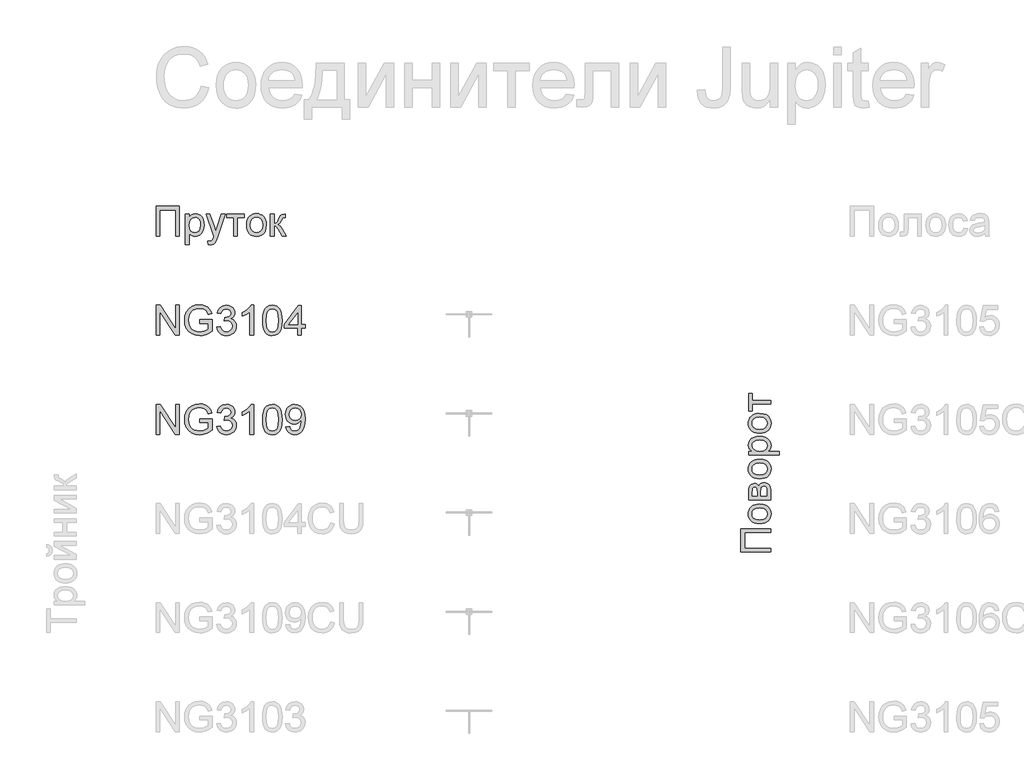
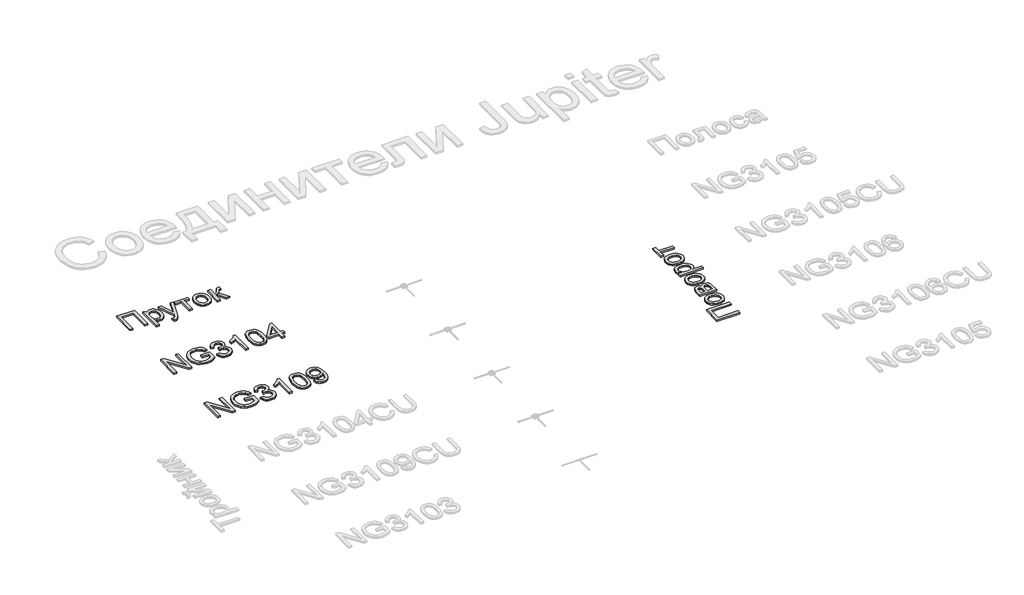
# One storey, part 122 of 124: 4 proxies.
"""IFC4 building model written with IfcOpenShell, lengths in millimetres."""

from ifc_helpers import new_model, si_unit, origin, origin_with_axes, place, context, project, spatial, polyline, outline, extrude, element, save

model = new_model("IFC4")

# Units and contexts
model_context = context("Model", 3, world=origin())
ifc_project = project(units=[si_unit("LENGTHUNIT", "METRE", prefix="MILLI")], contexts=[model_context])

# Site, building, storey
site = spatial("IfcSite", under=ifc_project)
building = spatial("IfcBuilding", under=site)
storey = spatial("IfcBuildingStorey", under=building, Name="Этаж 01", Elevation=0.0)

# Proxies
placement = place(None, origin())
element("IfcBuildingElementProxy", 1, Name="300", ObjectType="300", at=placement, inside=storey, context=model_context, shape_type="SweptSolid", body=[
    extrude(outline(polyline([(55595.8073128, -7708.4503527), (55595.8073128, -7473.0058758), (55897.1762432, -7473.0058758), (55897.1762432, -7510.6769921), (55633.4784291, -7510.6769921), (55633.4784291, -7670.7792364), (55897.1762432, -7670.7792364), (55897.1762432, -7708.4503527), (55595.8073128, -7708.4503527)])), origin_with_axes(), (0.0, 0.0, 1.0), 20.0),
    extrude(outline(polyline([(55786.5173391, -7421.2080909), (55757.8547331, -7419.1709443), (55733.1560557, -7413.0595047), (55712.4213067, -7402.8737719), (55695.6504863, -7388.6137461), (55684.9313246, -7374.2571512), (55677.2747806, -7358.4106343), (55672.6808542, -7341.0741953), (55671.1495454, -7322.2478342), (55673.0142473, -7301.4648007), (55678.6083529, -7282.6729285), (55687.9318622, -7265.8722177), (55700.9847752, -7251.0626681), (55717.3256336, -7238.9754453), (55736.5129789, -7230.3417147), (55758.5468111, -7225.1614764), (55783.4271303, -7223.4347303), (55821.4845227, -7226.4881508), (55850.4552298, -7235.6484125), (55872.1510705, -7250.6488008), (55888.3838636, -7271.2226014), (55898.5098155, -7295.659163), (55901.8851328, -7322.2478342), (55900.0273287, -7343.3343703), (55894.4539165, -7362.3009864), (55885.1648961, -7379.1476825), (55872.1602676, -7393.8744586), (55855.6607601, -7405.8329227), (55835.8871028, -7414.3746828), (55812.8392958, -7419.4997388), (55786.5173391, -7421.2080909)]), holes=[polyline([(55786.4437627, -7383.5369746), (55820.5372266, -7379.1775729), (55844.8266353, -7366.099368), (55859.3671712, -7346.4176812), (55864.2140165, -7322.2478342), (55859.33958, -7298.1883517), (55844.7162707, -7278.5434531), (55820.1049652, -7265.4652482), (55785.2665403, -7261.1058466), (55752.1663578, -7265.4928393), (55728.2080429, -7278.6538177), (55713.667507, -7298.3263074), (55708.8206617, -7322.2478342), (55713.6491129, -7346.4176812), (55728.1344665, -7366.099368), (55752.3686929, -7379.1775729), (55786.4437627, -7383.5369746)])]), origin_with_axes(), (0.0, 0.0, 1.0), 20.0),
    extrude(outline(polyline([(55675.8584349, -7181.0547244), (55675.8584349, -7098.0605463), (55677.1184308, -7071.3799046), (55680.8984183, -7052.5535435), (55688.035329, -7038.7027864), (55699.3660944, -7026.9489566), (55714.1273595, -7018.9199321), (55731.555769, -7016.2435906), (55745.5996642, -7017.8622713), (55757.7121789, -7022.7183137), (55767.9484954, -7030.8301117), (55776.363796, -7042.2160594), (55784.1904855, -7028.2733318), (55796.7812468, -7016.9057782), (55813.1427985, -7009.3458032), (55832.2818593, -7006.8258115), (55860.995049, -7013.2085641), (55881.2101646, -7028.3836964), (55893.1847236, -7052.4063907), (55897.1762432, -7085.3318293), (55897.1762432, -7181.0547244), (55675.8584349, -7181.0547244)]), holes=[polyline([(55760.6184466, -7143.3836081), (55760.6184466, -7106.1539502), (55758.7054603, -7075.4358036), (55751.0535148, -7060.4997946), (55744.7259444, -7055.5609788), (55737.2211517, -7053.9147069), (55725.9823568, -7056.8025805), (55718.7534756, -7065.4662015), (55714.8355323, -7081.1195804), (55713.5295512, -7104.9767278), (55713.5295512, -7143.3836081), (55760.6184466, -7143.3836081)]), polyline([(55859.5051269, -7143.3836081), (55859.5051269, -7097.1776295), (55857.8036727, -7071.9961069), (55852.69931, -7056.1955752), (55843.4194867, -7047.7158953), (55829.1916505, -7044.4969278), (55819.7646744, -7046.1064115), (55811.0550682, -7050.9348627), (55804.2400542, -7058.3476849), (55800.4968549, -7067.7102817), (55798.2895629, -7100.8564495), (55798.2895629, -7143.3836081), (55859.5051269, -7143.3836081)])]), origin_with_axes(), (0.0, 0.0, 1.0), 20.0),
    extrude(outline(polyline([(55786.5173391, -6969.1546952), (55757.8547331, -6967.1175486), (55733.1560557, -6961.006109), (55712.4213067, -6950.8203762), (55695.6504863, -6936.5603504), (55684.9313246, -6922.2037555), (55677.2747806, -6906.3572386), (55672.6808542, -6889.0207996), (55671.1495454, -6870.1944385), (55673.0142473, -6849.411405), (55678.6083529, -6830.6195329), (55687.9318622, -6813.818822), (55700.9847752, -6799.0092724), (55717.3256336, -6786.9220496), (55736.5129789, -6778.288319), (55758.5468111, -6773.1080807), (55783.4271303, -6771.3813346), (55821.4845227, -6774.4347551), (55850.4552298, -6783.5950168), (55872.1510705, -6798.5954052), (55888.3838636, -6819.1692058), (55898.5098155, -6843.6057673), (55901.8851328, -6870.1944385), (55900.0273287, -6891.2809746), (55894.4539165, -6910.2475907), (55885.1648961, -6927.0942868), (55872.1602676, -6941.8210629), (55855.6607601, -6953.779527), (55835.8871028, -6962.3212871), (55812.8392958, -6967.4463432), (55786.5173391, -6969.1546952)]), holes=[polyline([(55786.4437627, -6931.4835789), (55820.5372266, -6927.1241772), (55844.8266353, -6914.0459723), (55859.3671712, -6894.3642856), (55864.2140165, -6870.1944385), (55859.33958, -6846.134956), (55844.7162707, -6826.4900575), (55820.1049652, -6813.4118525), (55785.2665403, -6809.0524509), (55752.1663578, -6813.4394437), (55728.2080429, -6826.6004221), (55713.667507, -6846.2729117), (55708.8206617, -6870.1944385), (55713.6491129, -6894.3642856), (55728.1344665, -6914.0459723), (55752.3686929, -6927.1241772), (55786.4437627, -6931.4835789)])]), origin_with_axes(), (0.0, 0.0, 1.0), 20.0),
    extrude(outline(polyline([(55981.9362549, -6729.0013287), (55675.8584349, -6729.0013287), (55675.8584349, -6691.3302124), (55712.7937873, -6691.3302124), (55694.5744314, -6679.0429538), (55681.5606059, -6665.2841672), (55673.7523105, -6649.2445122), (55671.1495454, -6630.1146484), (55674.7915772, -6604.6388203), (55685.7176724, -6582.3635655), (55703.2656436, -6564.2269831), (55726.7733031, -6551.1671723), (55754.5299996, -6543.2761035), (55784.8250819, -6540.6457472), (55817.0423476, -6543.6163943), (55845.8567049, -6552.5283356), (55869.8058228, -6567.0964627), (55887.4273704, -6587.0356668), (55898.2706922, -6610.2582177), (55901.8851328, -6634.6763852), (55899.4663087, -6651.9944301), (55892.2098363, -6667.4546709), (55881.2561499, -6680.6892257), (55867.7456836, -6691.3302124), (55981.9362549, -6691.3302124), (55981.9362549, -6729.0013287)]), holes=[polyline([(55788.2831727, -6691.3302124), (55822.0547398, -6687.2559193), (55845.6727639, -6675.03304), (55859.5787033, -6656.9976252), (55864.2140165, -6635.4857256), (55859.4131564, -6613.624338), (55845.0105763, -6595.1290707), (55820.5280295, -6582.5199153), (55785.4872695, -6578.3168635), (55751.8996433, -6582.4187478), (55727.9505255, -6594.7244005), (55713.6031276, -6612.7322242), (55708.8206617, -6633.9406212), (55713.9066303, -6655.2317916), (55729.164536, -6673.9293941), (55754.1161324, -6686.9800078), (55788.2831727, -6691.3302124)])]), origin_with_axes(), (0.0, 0.0, 1.0), 20.0),
    extrude(outline(polyline([(55786.5173391, -6507.6835204), (55757.8547331, -6505.6463739), (55733.1560557, -6499.5349342), (55712.4213067, -6489.3492015), (55695.6504863, -6475.0891757), (55684.9313246, -6460.7325808), (55677.2747806, -6444.8860639), (55672.6808542, -6427.5496248), (55671.1495454, -6408.7232637), (55673.0142473, -6387.9402303), (55678.6083529, -6369.1483581), (55687.9318622, -6352.3476472), (55700.9847752, -6337.5380977), (55717.3256336, -6325.4508749), (55736.5129789, -6316.8171443), (55758.5468111, -6311.6369059), (55783.4271303, -6309.9101598), (55821.4845227, -6312.9635804), (55850.4552298, -6322.1238421), (55872.1510705, -6337.1242304), (55888.3838636, -6357.698031), (55898.5098155, -6382.1345925), (55901.8851328, -6408.7232637), (55900.0273287, -6429.8097998), (55894.4539165, -6448.776416), (55885.1648961, -6465.6231121), (55872.1602676, -6480.3498882), (55855.6607601, -6492.3083523), (55835.8871028, -6500.8501124), (55812.8392958, -6505.9751684), (55786.5173391, -6507.6835204)]), holes=[polyline([(55786.4437627, -6470.0124041), (55820.5372266, -6465.6530025), (55844.8266353, -6452.5747976), (55859.3671712, -6432.8931108), (55864.2140165, -6408.7232637), (55859.33958, -6384.6637812), (55844.7162707, -6365.0188827), (55820.1049652, -6351.9406778), (55785.2665403, -6347.5812761), (55752.1663578, -6351.9682689), (55728.2080429, -6365.1292473), (55713.667507, -6384.801737), (55708.8206617, -6408.7232637), (55713.6491129, -6432.8931108), (55728.1344665, -6452.5747976), (55752.3686929, -6465.6530025), (55786.4437627, -6470.0124041)])]), origin_with_axes(), (0.0, 0.0, 1.0), 20.0),
    extrude(outline(polyline([(55675.8584349, -6286.3657121), (55675.8584349, -6107.4279097), (55713.5295512, -6107.4279097), (55713.5295512, -6178.0612528), (55897.1762432, -6178.0612528), (55897.1762432, -6215.7323691), (55713.5295512, -6215.7323691), (55713.5295512, -6286.3657121), (55675.8584349, -6286.3657121)])), origin_with_axes(), (0.0, 0.0, 1.0), 20.0),
])
element("IfcBuildingElementProxy", 2, Name="300", ObjectType="300", at=placement, inside=storey, context=model_context, shape_type="SweptSolid", body=[
    extrude(outline(polyline([(49699.8220677, -4218.1451728), (49935.2665446, -4218.1451728), (49935.2665446, -4519.5141033), (49897.5954283, -4519.5141033), (49897.5954283, -4255.8162891), (49737.493184, -4255.8162891), (49737.493184, -4519.5141033), (49699.8220677, -4519.5141033), (49699.8220677, -4218.1451728)])), origin_with_axes(), (0.0, 0.0, 1.0), 20.0),
    extrude(outline(polyline([(49996.4821086, -4604.2741149), (49996.4821086, -4298.196295), (50034.1532249, -4298.196295), (50034.1532249, -4335.1316473), (50046.4404835, -4316.9122915), (50060.1992702, -4303.8984659), (50076.2389252, -4296.0901705), (50095.3687889, -4293.4874054), (50120.8446171, -4297.1294372), (50143.1198719, -4308.0555324), (50161.2564542, -4325.6035036), (50174.3162651, -4349.1111631), (50182.2073339, -4376.8678596), (50184.8376901, -4407.1629419), (50181.867043, -4439.3802077), (50172.9551017, -4468.1945649), (50158.3869747, -4492.1436828), (50138.4477705, -4509.7652304), (50115.2252196, -4520.6085522), (50090.8070522, -4524.2229928), (50073.4890072, -4521.8041687), (50058.0287664, -4514.5476963), (50044.7942116, -4503.5940099), (50034.1532249, -4490.0835436), (50034.1532249, -4604.2741149), (49996.4821086, -4604.2741149)]), holes=[polyline([(50034.1532249, -4410.6210327), (50038.227518, -4444.3925998), (50050.4503973, -4468.0106239), (50068.4858121, -4481.9165634), (50089.9977118, -4486.5518765), (50111.8590993, -4481.7510165), (50130.3543666, -4467.3484363), (50142.963522, -4442.8658896), (50147.1665738, -4407.8251295), (50143.0646896, -4374.2375034), (50130.7590368, -4350.2883855), (50112.7512132, -4335.9409877), (50091.5428162, -4331.1585217), (50070.2516457, -4336.2444903), (50051.5540433, -4351.5023961), (50038.5034295, -4376.4539924), (50034.1532249, -4410.6210327)])]), origin_with_axes(), (0.0, 0.0, 1.0), 20.0),
    extrude(outline(polyline([(50227.217696, -4604.2741149), (50222.5088064, -4568.0009502), (50241.6386702, -4571.3118882), (50259.5177352, -4567.1548216), (50270.4806186, -4555.5665388), (50280.7813145, -4527.8282364), (50283.7243704, -4518.7047629), (50203.6732483, -4298.196295), (50243.4045038, -4298.196295), (50285.858086, -4421.0688814), (50300.6469422, -4470.2179159), (50315.4357984, -4426.8078405), (50359.0666031, -4298.196295), (50398.5035529, -4298.196295), (50321.4690631, -4524.811604), (50301.4562826, -4573.9606385), (50291.210769, -4589.6508056), (50279.6040921, -4600.5217186), (50266.121217, -4606.867683), (50250.2471089, -4608.9830045), (50227.217696, -4604.2741149)])), origin_with_axes(), (0.0, 0.0, 1.0), 20.0),
    extrude(outline(polyline([(50410.864388, -4298.196295), (50589.8021904, -4298.196295), (50589.8021904, -4335.8674113), (50519.1688474, -4335.8674113), (50519.1688474, -4519.5141033), (50481.497731, -4519.5141033), (50481.497731, -4335.8674113), (50410.864388, -4335.8674113), (50410.864388, -4298.196295)])), origin_with_axes(), (0.0, 0.0, 1.0), 20.0),
    extrude(outline(polyline([(50613.3466381, -4408.8551991), (50615.3837847, -4380.1925932), (50621.4952243, -4355.4939157), (50631.6809571, -4334.7591668), (50645.9409829, -4317.9883463), (50660.2975778, -4307.2691847), (50676.1440947, -4299.6126406), (50693.4805337, -4295.0187142), (50712.3068948, -4293.4874054), (50733.0899283, -4295.3521073), (50751.8818005, -4300.9462129), (50768.6825113, -4310.2697222), (50783.4920609, -4323.3226352), (50795.5792837, -4339.6634936), (50804.2130143, -4358.8508389), (50809.3932526, -4380.8846712), (50811.1199987, -4405.7649904), (50808.0665782, -4443.8223828), (50798.9063165, -4472.7930899), (50783.9059281, -4494.4889305), (50763.3321276, -4510.7217236), (50738.895566, -4520.8476755), (50712.3068948, -4524.2229928), (50691.2203587, -4522.3651887), (50672.2537426, -4516.7917765), (50655.4070465, -4507.5027561), (50640.6802704, -4494.4981276), (50628.7218063, -4477.9986201), (50620.1800462, -4458.2249629), (50615.0549901, -4435.1771559), (50613.3466381, -4408.8551991)]), holes=[polyline([(50651.0177544, -4408.7816227), (50655.3771561, -4442.8750866), (50668.455361, -4467.1644953), (50688.1370477, -4481.7050312), (50712.3068948, -4486.5518765), (50736.3663773, -4481.6774401), (50756.0112758, -4467.0541307), (50769.0894808, -4442.4428253), (50773.4488824, -4407.6044003), (50769.0618896, -4374.5042178), (50755.9009112, -4350.5459029), (50736.2284216, -4336.005367), (50712.3068948, -4331.1585217), (50688.1370477, -4335.9869729), (50668.455361, -4350.4723265), (50655.3771561, -4374.7065529), (50651.0177544, -4408.7816227)])]), origin_with_axes(), (0.0, 0.0, 1.0), 20.0),
    extrude(outline(polyline([(50853.5000046, -4298.196295), (50891.1711209, -4298.196295), (50891.1711209, -4392.3740857), (50906.493406, -4390.6818285), (50916.4078257, -4385.605057), (50925.1818113, -4372.3613052), (50937.0827939, -4346.1681071), (50954.262883, -4312.1390226), (50969.4196212, -4301.0657745), (50996.9739827, -4298.196295), (51004.1844698, -4298.196295), (51004.1844698, -4336.0881405), (50994.0309267, -4335.8674113), (50975.636827, -4339.8405368), (50962.6873807, -4364.6357833), (50947.4938543, -4391.4543807), (50926.1934868, -4404.587768), (50938.1312576, -4409.8898672), (50949.9586637, -4419.2478655), (50973.2823822, -4450.131559), (51013.6022489, -4519.5141033), (50970.7807846, -4519.5141033), (50931.2702583, -4451.603087), (50911.4046306, -4422.8715031), (50902.1156102, -4417.6567758), (50891.1711209, -4415.9185334), (50891.1711209, -4519.5141033), (50853.5000046, -4519.5141033), (50853.5000046, -4298.196295)])), origin_with_axes(), (0.0, 0.0, 1.0), 20.0),
])
element("IfcBuildingElementProxy", 3, Name="300", ObjectType="300", at=placement, inside=storey, context=model_context, shape_type="SweptSolid", body=[
    extrude(outline(polyline([(49699.8220677, -5519.5141033), (49699.8220677, -5218.1451728), (49740.1419344, -5218.1451728), (49897.5954283, -5456.9005877), (49897.5954283, -5218.1451728), (49935.2665446, -5218.1451728), (49935.2665446, -5519.5141033), (49894.9466779, -5519.5141033), (49737.493184, -5280.685112), (49737.493184, -5519.5141033), (49699.8220677, -5519.5141033)])), origin_with_axes(), (0.0, 0.0, 1.0), 20.0),
    extrude(outline(polyline([(50142.4576843, -5401.7918648), (50142.4576843, -5364.1207485), (50264.8888123, -5364.1207485), (50264.8888123, -5476.7662154), (50235.1363559, -5497.4595776), (50204.4458005, -5512.3036162), (50172.8907223, -5521.2431486), (50140.5446979, -5524.2229928), (50098.2842537, -5519.4865121), (50060.0889056, -5505.27707), (50028.3590835, -5482.0913073), (50005.4952175, -5450.4258646), (49991.6720515, -5412.4420486), (49987.0643295, -5370.301166), (49991.6536574, -5327.8567808), (50005.4216411, -5288.3738457), (50027.7980634, -5255.2552691), (50058.2127074, -5231.9039594), (50095.2584243, -5218.0532023), (50137.5280656, -5213.4362833), (50168.5589118, -5216.1126248), (50196.4627612, -5224.1416493), (50219.9612236, -5236.9439428), (50237.7759092, -5253.9400909), (50250.9552817, -5275.9486313), (50260.5478047, -5303.7881013), (50225.8197444, -5313.5737624), (50218.0666313, -5293.7173317), (50208.6396552, -5278.7353374), (50196.1684556, -5267.4413602), (50179.282672, -5258.6489805), (50159.1503298, -5252.9927948), (50136.9394544, -5251.1073996), (50110.9393944, -5253.1399476), (50088.7101248, -5259.2375917), (50070.3344191, -5268.6369766), (50055.8950508, -5280.5747474), (50036.5076697, -5309.6006368), (50027.6785018, -5338.037915), (50024.7354458, -5368.7560616), (50028.27631, -5404.780906), (50038.8989026, -5434.4229978), (50056.2813269, -5457.4708048), (50080.1016861, -5473.7127949), (50107.9779443, -5483.3421061), (50137.5280656, -5486.5518765), (50163.6200961, -5484.1330524), (50189.0683331, -5476.87658), (50211.1688439, -5466.8793868), (50227.217696, -5456.2384001), (50227.217696, -5401.7918648), (50142.4576843, -5401.7918648)])), origin_with_axes(), (0.0, 0.0, 1.0), 20.0),
    extrude(outline(polyline([(50311.9777077, -5439.4629811), (50349.648824, -5434.7540916), (50358.0825187, -5458.427298), (50370.4341567, -5474.4117707), (50387.3107432, -5483.51685), (50409.3192836, -5486.5518765), (50435.1445997, -5482.3764158), (50455.0838038, -5469.8500339), (50467.8309149, -5451.1616286), (50472.079952, -5428.5000977), (50467.8677031, -5406.988198), (50455.2309566, -5389.5413944), (50436.1010928, -5377.9807027), (50412.4094924, -5374.1271388), (50385.9955651, -5378.2474171), (50390.1894198, -5340.5763008), (50396.2226846, -5341.0177592), (50418.792245, -5338.3138265), (50438.9705724, -5330.2020285), (50453.2076056, -5316.4800301), (50457.9532834, -5296.9454962), (50454.5135867, -5280.6759149), (50444.1944967, -5267.4781484), (50428.4491473, -5258.7317539), (50408.7306724, -5255.8162891), (50388.9754093, -5258.7593451), (50372.8253897, -5267.588513), (50361.0347717, -5282.3037928), (50354.3577135, -5302.9051845), (50316.6865972, -5298.196295), (50327.7782394, -5264.3695455), (50347.5151084, -5239.1144465), (50374.5176468, -5223.3874912), (50407.4062972, -5218.1451728), (50431.0887007, -5220.7295438), (50452.8397236, -5228.4826569), (50471.1786411, -5240.7147332), (50484.624728, -5256.7359941), (50492.8744817, -5275.1944732), (50495.6243997, -5294.7382042), (50493.0124375, -5312.948363), (50485.176551, -5329.4662646), (50472.2271048, -5343.5377509), (50454.2744634, -5354.4086638), (50477.8556993, -5363.9368075), (50495.3300941, -5380.1604035), (50506.1458247, -5402.196535), (50509.7510683, -5429.1622852), (50507.9484465, -5448.2737549), (50502.5405812, -5465.8769084), (50493.5274723, -5481.9717457), (50480.9091199, -5496.5582668), (50465.536251, -5508.6615844), (50448.2595928, -5517.3068113), (50429.0791453, -5522.4939474), (50407.9949084, -5524.2229928), (50388.9386211, -5522.7468663), (50371.5745909, -5518.3184868), (50355.9028179, -5510.9378542), (50341.9233021, -5500.6049687), (50330.201662, -5487.9268354), (50321.3035162, -5473.5104598), (50315.2288648, -5457.3558417), (50311.9777077, -5439.4629811)])), origin_with_axes(), (0.0, 0.0, 1.0), 20.0),
    extrude(outline(polyline([(50683.9799812, -5519.5141033), (50646.3088649, -5519.5141033), (50646.3088649, -5284.6582375), (50610.6243114, -5310.0788834), (50570.9666323, -5329.0983826), (50570.9666323, -5293.4874054), (50600.5535417, -5277.3925681), (50626.1857197, -5258.2443103), (50646.3916383, -5237.8820419), (50659.6997695, -5218.1451728), (50683.9799812, -5218.1451728), (50683.9799812, -5519.5141033)])), origin_with_axes(), (0.0, 0.0, 1.0), 20.0),
    extrude(outline(polyline([(50773.4488824, -5371.2576592), (50776.2171944, -5323.0191326), (50784.5221305, -5284.5478729), (50798.2809171, -5255.2552691), (50817.4107808, -5234.5527098), (50842.0496775, -5222.2470571), (50872.3355627, -5218.1451728), (50895.5489166, -5220.573194), (50916.3342493, -5227.8572575), (50933.7166736, -5239.7122548), (50946.7213021, -5255.8530773), (50956.5437514, -5276.1417694), (50964.3796379, -5300.4403751), (50969.5115917, -5331.2964775), (50971.222243, -5371.2576592), (50968.4815222, -5419.2202743), (50960.2593596, -5457.5995635), (50946.5833464, -5486.9197585), (50927.4810738, -5507.7050912), (50902.7869949, -5520.0935174), (50872.3355627, -5524.2229928), (50851.5870182, -5522.4295681), (50833.1929184, -5517.0492939), (50817.1532634, -5508.0821703), (50803.4680532, -5495.5281972), (50790.334666, -5472.8344766), (50780.9536751, -5444.5581467), (50775.3250806, -5410.6992076), (50773.4488824, -5371.2576592)]), holes=[polyline([(50811.1199987, -5371.1840828), (50815.5345827, -5430.4406752), (50821.0528126, -5450.7086739), (50828.7783345, -5464.7364742), (50848.4968094, -5481.0980259), (50872.3355627, -5486.5518765), (50896.174316, -5481.0796318), (50915.892791, -5464.6628978), (50923.6183128, -5450.6121048), (50929.1365428, -5430.3487047), (50933.5511267, -5371.1840828), (50929.2836956, -5313.2610627), (50923.9494066, -5293.0597426), (50916.4814021, -5278.6985492), (50896.7997154, -5261.5368541), (50871.8941043, -5255.8162891), (50848.3128684, -5260.8562725), (50829.3669457, -5275.9762225), (50821.3839064, -5291.6112072), (50815.6817355, -5312.6908456), (50811.1199987, -5371.1840828)])]), origin_with_axes(), (0.0, 0.0, 1.0), 20.0),
    extrude(outline(polyline([(51126.6155978, -5519.5141033), (51126.6155978, -5448.8807602), (50990.0578012, -5448.8807602), (50990.0578012, -5411.2096439), (51136.0333769, -5222.8540624), (51164.2867141, -5222.8540624), (51164.2867141, -5411.2096439), (51201.9578304, -5411.2096439), (51201.9578304, -5448.8807602), (51164.2867141, -5448.8807602), (51164.2867141, -5519.5141033), (51126.6155978, -5519.5141033)]), holes=[polyline([(51126.6155978, -5411.2096439), (51126.6155978, -5294.8117806), (51036.4109326, -5411.2096439), (51126.6155978, -5411.2096439)])]), origin_with_axes(), (0.0, 0.0, 1.0), 20.0),
])
element("IfcBuildingElementProxy", 4, Name="300", ObjectType="300", at=placement, inside=storey, context=model_context, shape_type="SweptSolid", body=[
    extrude(outline(polyline([(49699.8220677, -6519.5141033), (49699.8220677, -6218.1451728), (49740.1419344, -6218.1451728), (49897.5954283, -6456.9005877), (49897.5954283, -6218.1451728), (49935.2665446, -6218.1451728), (49935.2665446, -6519.5141033), (49894.9466779, -6519.5141033), (49737.493184, -6280.685112), (49737.493184, -6519.5141033), (49699.8220677, -6519.5141033)])), origin_with_axes(), (0.0, 0.0, 1.0), 20.0),
    extrude(outline(polyline([(50142.4576843, -6401.7918648), (50142.4576843, -6364.1207485), (50264.8888123, -6364.1207485), (50264.8888123, -6476.7662154), (50235.1363559, -6497.4595776), (50204.4458005, -6512.3036162), (50172.8907223, -6521.2431486), (50140.5446979, -6524.2229928), (50098.2842537, -6519.4865121), (50060.0889056, -6505.27707), (50028.3590835, -6482.0913073), (50005.4952175, -6450.4258646), (49991.6720515, -6412.4420486), (49987.0643295, -6370.301166), (49991.6536574, -6327.8567808), (50005.4216411, -6288.3738457), (50027.7980634, -6255.2552691), (50058.2127074, -6231.9039594), (50095.2584243, -6218.0532023), (50137.5280656, -6213.4362833), (50168.5589118, -6216.1126248), (50196.4627612, -6224.1416493), (50219.9612236, -6236.9439428), (50237.7759092, -6253.9400909), (50250.9552817, -6275.9486313), (50260.5478047, -6303.7881013), (50225.8197444, -6313.5737624), (50218.0666313, -6293.7173317), (50208.6396552, -6278.7353374), (50196.1684556, -6267.4413602), (50179.282672, -6258.6489805), (50159.1503298, -6252.9927948), (50136.9394544, -6251.1073996), (50110.9393944, -6253.1399476), (50088.7101248, -6259.2375917), (50070.3344191, -6268.6369766), (50055.8950508, -6280.5747474), (50036.5076697, -6309.6006368), (50027.6785018, -6338.037915), (50024.7354458, -6368.7560616), (50028.27631, -6404.780906), (50038.8989026, -6434.4229978), (50056.2813269, -6457.4708048), (50080.1016861, -6473.7127949), (50107.9779443, -6483.3421061), (50137.5280656, -6486.5518765), (50163.6200961, -6484.1330524), (50189.0683331, -6476.87658), (50211.1688439, -6466.8793868), (50227.217696, -6456.2384001), (50227.217696, -6401.7918648), (50142.4576843, -6401.7918648)])), origin_with_axes(), (0.0, 0.0, 1.0), 20.0),
    extrude(outline(polyline([(50311.9777077, -6439.4629811), (50349.648824, -6434.7540916), (50358.0825187, -6458.427298), (50370.4341567, -6474.4117707), (50387.3107432, -6483.51685), (50409.3192836, -6486.5518765), (50435.1445997, -6482.3764158), (50455.0838038, -6469.8500339), (50467.8309149, -6451.1616286), (50472.079952, -6428.5000977), (50467.8677031, -6406.988198), (50455.2309566, -6389.5413944), (50436.1010928, -6377.9807027), (50412.4094924, -6374.1271388), (50385.9955651, -6378.2474171), (50390.1894198, -6340.5763008), (50396.2226846, -6341.0177592), (50418.792245, -6338.3138265), (50438.9705724, -6330.2020285), (50453.2076056, -6316.4800301), (50457.9532834, -6296.9454962), (50454.5135867, -6280.6759149), (50444.1944967, -6267.4781484), (50428.4491473, -6258.7317539), (50408.7306724, -6255.8162891), (50388.9754093, -6258.7593451), (50372.8253897, -6267.588513), (50361.0347717, -6282.3037928), (50354.3577135, -6302.9051845), (50316.6865972, -6298.196295), (50327.7782394, -6264.3695455), (50347.5151084, -6239.1144465), (50374.5176468, -6223.3874912), (50407.4062972, -6218.1451728), (50431.0887007, -6220.7295438), (50452.8397236, -6228.4826569), (50471.1786411, -6240.7147332), (50484.624728, -6256.7359941), (50492.8744817, -6275.1944732), (50495.6243997, -6294.7382042), (50493.0124375, -6312.948363), (50485.176551, -6329.4662646), (50472.2271048, -6343.5377509), (50454.2744634, -6354.4086638), (50477.8556993, -6363.9368075), (50495.3300941, -6380.1604035), (50506.1458247, -6402.196535), (50509.7510683, -6429.1622852), (50507.9484465, -6448.2737549), (50502.5405812, -6465.8769084), (50493.5274723, -6481.9717457), (50480.9091199, -6496.5582668), (50465.536251, -6508.6615844), (50448.2595928, -6517.3068113), (50429.0791453, -6522.4939474), (50407.9949084, -6524.2229928), (50388.9386211, -6522.7468663), (50371.5745909, -6518.3184868), (50355.9028179, -6510.9378542), (50341.9233021, -6500.6049687), (50330.201662, -6487.9268354), (50321.3035162, -6473.5104598), (50315.2288648, -6457.3558417), (50311.9777077, -6439.4629811)])), origin_with_axes(), (0.0, 0.0, 1.0), 20.0),
    extrude(outline(polyline([(50683.9799812, -6519.5141033), (50646.3088649, -6519.5141033), (50646.3088649, -6284.6582375), (50610.6243114, -6310.0788834), (50570.9666323, -6329.0983826), (50570.9666323, -6293.4874054), (50600.5535417, -6277.3925681), (50626.1857197, -6258.2443103), (50646.3916383, -6237.8820419), (50659.6997695, -6218.1451728), (50683.9799812, -6218.1451728), (50683.9799812, -6519.5141033)])), origin_with_axes(), (0.0, 0.0, 1.0), 20.0),
    extrude(outline(polyline([(50773.4488824, -6371.2576592), (50776.2171944, -6323.0191326), (50784.5221305, -6284.5478729), (50798.2809171, -6255.2552691), (50817.4107808, -6234.5527098), (50842.0496775, -6222.2470571), (50872.3355627, -6218.1451728), (50895.5489166, -6220.573194), (50916.3342493, -6227.8572575), (50933.7166736, -6239.7122548), (50946.7213021, -6255.8530773), (50956.5437514, -6276.1417694), (50964.3796379, -6300.4403751), (50969.5115917, -6331.2964775), (50971.222243, -6371.2576592), (50968.4815222, -6419.2202743), (50960.2593596, -6457.5995635), (50946.5833464, -6486.9197585), (50927.4810738, -6507.7050912), (50902.7869949, -6520.0935174), (50872.3355627, -6524.2229928), (50851.5870182, -6522.4295681), (50833.1929184, -6517.0492939), (50817.1532634, -6508.0821703), (50803.4680532, -6495.5281972), (50790.334666, -6472.8344766), (50780.9536751, -6444.5581467), (50775.3250806, -6410.6992076), (50773.4488824, -6371.2576592)]), holes=[polyline([(50811.1199987, -6371.1840828), (50815.5345827, -6430.4406752), (50821.0528126, -6450.7086739), (50828.7783345, -6464.7364742), (50848.4968094, -6481.0980259), (50872.3355627, -6486.5518765), (50896.174316, -6481.0796318), (50915.892791, -6464.6628978), (50923.6183128, -6450.6121048), (50929.1365428, -6430.3487047), (50933.5511267, -6371.1840828), (50929.2836956, -6313.2610627), (50923.9494066, -6293.0597426), (50916.4814021, -6278.6985492), (50896.7997154, -6261.5368541), (50871.8941043, -6255.8162891), (50848.3128684, -6260.8562725), (50829.3669457, -6275.9762225), (50821.3839064, -6291.6112072), (50815.6817355, -6312.6908456), (50811.1199987, -6371.1840828)])]), origin_with_axes(), (0.0, 0.0, 1.0), 20.0),
    extrude(outline(polyline([(51008.8933593, -6444.1718706), (51046.5644756, -6439.4629811), (51053.0024106, -6460.8461221), (51063.4870474, -6475.405052), (51077.7608688, -6483.7651704), (51095.5663574, -6486.5518765), (51111.541633, -6484.7584518), (51126.0637748, -6479.3781776), (51138.1303042, -6470.9996651), (51146.7387429, -6460.2115256), (51159.0627898, -6427.4700281), (51164.5074433, -6383.765647), (51164.2867141, -6376.4080071), (51151.2361003, -6392.3372975), (51134.1571787, -6404.95565), (51114.2823539, -6413.1778126), (51092.8440306, -6415.9185334), (51074.9488708, -6414.2446703), (51058.4930493, -6409.2230811), (51043.4765661, -6400.8537657), (51029.8994213, -6389.1367242), (51018.64913, -6374.6835603), (51010.6132077, -6358.1058779), (51005.7916543, -6339.4036769), (51004.1844698, -6318.5769575), (51005.8698292, -6297.0558608), (51010.9259074, -6277.742056), (51019.3527043, -6260.6355433), (51031.15022, -6245.7363225), (51045.4861215, -6233.6651945), (51061.5280758, -6225.0429602), (51079.2760828, -6219.8696197), (51098.7301426, -6218.1451728), (51126.8271299, -6222.0815102), (51152.4041256, -6233.8905222), (51173.7964637, -6252.9835978), (51189.339478, -6278.7721256), (51198.8032423, -6314.4198909), (51201.9578304, -6363.0906789), (51198.8124393, -6414.6953258), (51189.3762662, -6454.5829311), (51173.7320843, -6484.5561167), (51151.9626673, -6506.4175042), (51125.0061141, -6519.7716207), (51093.8005238, -6524.2229928), (51061.5924551, -6518.9714773), (51035.8958978, -6503.2169309), (51017.9248623, -6477.9526349), (51008.8933593, -6444.1718706)]), holes=[polyline([(51164.2867141, -6317.6940407), (51160.221618, -6292.1630302), (51148.0263299, -6272.5181317), (51129.0988013, -6259.9917498), (51104.8369837, -6255.8162891), (51079.6738552, -6260.3136465), (51059.5139219, -6273.8057187), (51046.27017, -6294.4530957), (51041.8555861, -6320.4163675), (51046.0310467, -6343.6941007), (51058.5574287, -6362.1709739), (51078.2207213, -6374.2283063), (51103.8069141, -6378.2474171), (51127.8755936, -6374.2283063), (51147.2537777, -6362.1709739), (51160.02848, -6343.013519), (51164.2867141, -6317.6940407)])]), origin_with_axes(), (0.0, 0.0, 1.0), 20.0),
])

save(model, "model.ifc")
